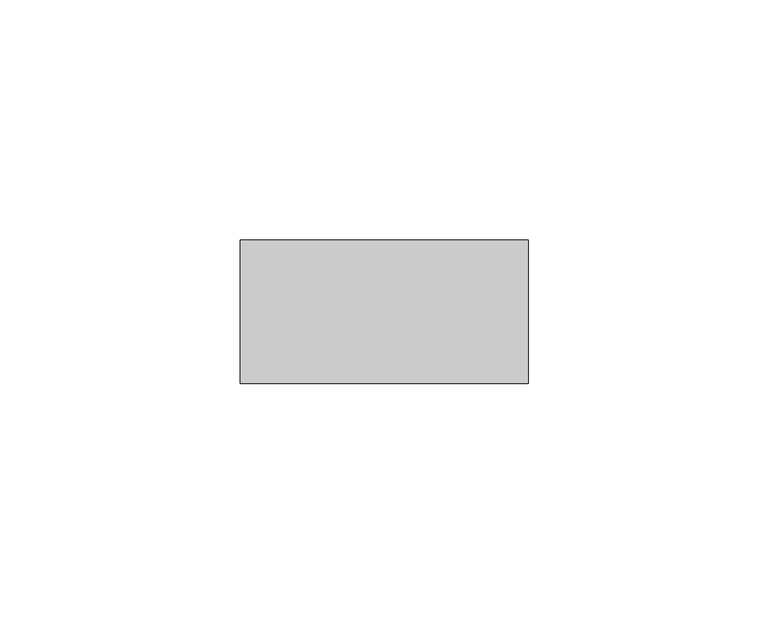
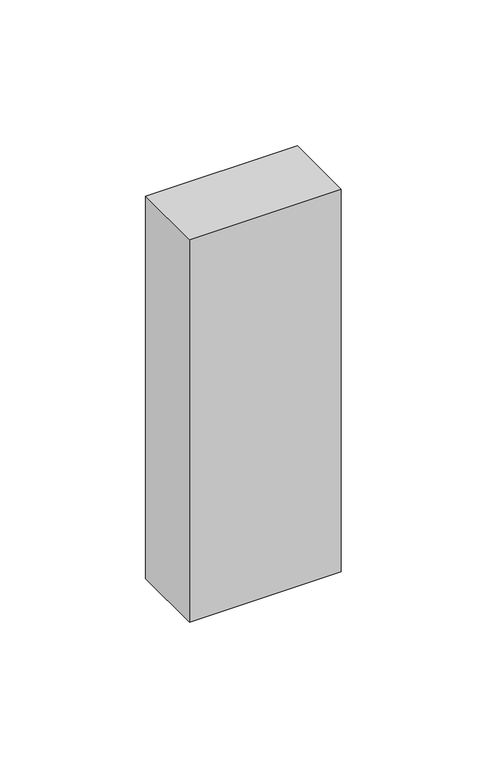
"""IFC4 building model written with IfcOpenShell, lengths in millimetres: member geometry, Прямоугольный импост : Квадрат 30 мм."""

from ifc_helpers import new_model, si_unit, frame, origin, place, context, project, spatial, polyline, outline, extrude, source, transform, mapped, element, save


def member_a503a717(model_context):
    return source(origin(), model_context, "Body", "SweptSolid", [
        extrude(outline(polyline([(30.0, 15.0), (30.0, -15.0), (-30.0, -15.0), (-30.0, 15.0), (30.0, 15.0)])), frame((0.0, 0.0, -160.0), z_axis=(0.0, 0.0, 1.0), x_axis=(1.0, 0.0, 0.0)), (0.0, 0.0, 1.0), 160.0),
    ])


if __name__ == "__main__":
    model = new_model("IFC4")
    model_context = context("Model", 3, world=origin())
    ifc_project = project(units=[si_unit("LENGTHUNIT", "METRE", prefix="MILLI")], contexts=[model_context])
    site = spatial("IfcSite", under=ifc_project)
    building = spatial("IfcBuilding", under=site)
    placement = place(None, origin())
    member_shape = member_a503a717(model_context)
    element("IfcMember", 1, ObjectType="Прямоугольный импост : Квадрат 30 мм", at=placement, inside=building, context=model_context, shape_type="MappedRepresentation", body=[
        mapped(member_shape, transform((0.0, 0.0, 0.0), x_axis=(1.0, 0.0, 0.0), y_axis=(0.0, 1.0, 0.0), z_axis=(0.0, 0.0, 1.0))),
    ])
    save(model, "model.ifc")
